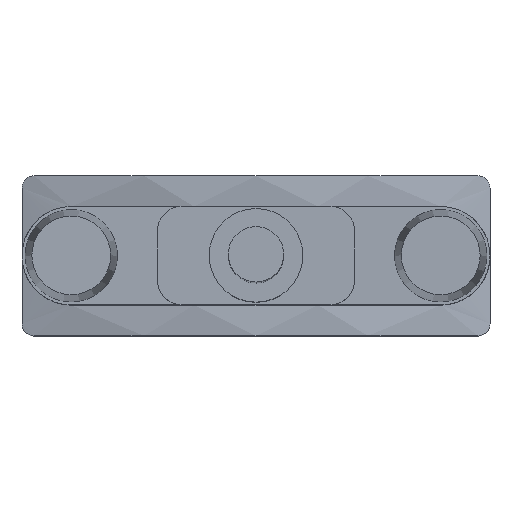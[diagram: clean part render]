
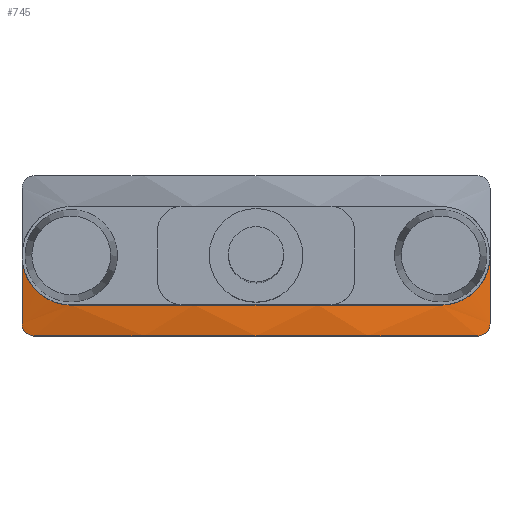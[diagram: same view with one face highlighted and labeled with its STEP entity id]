
A CAD part, top view. The second image highlights one B-rep face of the part: STEP entity #745.
In plain terms, the highlighted cylindrical face has radius 65.927 mm (diameter 131.855 mm), a partial arc.
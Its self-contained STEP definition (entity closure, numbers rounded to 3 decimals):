
#388 = EDGE_CURVE('',#389,#391,#393,.T.);
#389 = VERTEX_POINT('',#390);
#390 = CARTESIAN_POINT('',(15.,-4.,10.268));
#391 = VERTEX_POINT('',#392);
#392 = CARTESIAN_POINT('',(19.,0.,9.2));
#393 = B_SPLINE_CURVE_WITH_KNOTS('',8,(#394,#395,#396,#397,#398,#399,
    #400,#401,#402,#403,#404,#405,#406,#407,#408,#409),.UNSPECIFIED.,.F.
  ,.F.,(9,7,9),(0.,0.324,1.),.UNSPECIFIED.);
#394 = CARTESIAN_POINT('',(15.,-4.,10.268));
#395 = CARTESIAN_POINT('',(15.302,-4.,10.198));
#396 = CARTESIAN_POINT('',(15.601,-3.974,10.126)
  );
#397 = CARTESIAN_POINT('',(15.894,-3.923,
    10.054));
#398 = CARTESIAN_POINT('',(16.178,-3.848,
    9.983));
#399 = CARTESIAN_POINT('',(16.451,-3.751,9.913)
  );
#400 = CARTESIAN_POINT('',(16.709,-3.635,9.845)
  );
#401 = CARTESIAN_POINT('',(16.951,-3.502,
    9.781));
#402 = CARTESIAN_POINT('',(17.645,-3.053,
    9.594));
#403 = CARTESIAN_POINT('',(18.041,-2.689,
    9.483));
#404 = CARTESIAN_POINT('',(18.366,-2.285,9.389
    ));
#405 = CARTESIAN_POINT('',(18.622,-1.852,
    9.313));
#406 = CARTESIAN_POINT('',(18.812,-1.401,9.257
    ));
#407 = CARTESIAN_POINT('',(18.937,-0.937,
    9.219));
#408 = CARTESIAN_POINT('',(19.,-0.469,9.2));
#409 = CARTESIAN_POINT('',(19.,0.,9.2));
#451 = VERTEX_POINT('',#452);
#452 = CARTESIAN_POINT('',(-19.,0.,9.2));
#474 = VERTEX_POINT('',#475);
#475 = CARTESIAN_POINT('',(-15.,-4.,10.268));
#481 = EDGE_CURVE('',#451,#474,#482,.T.);
#482 = B_SPLINE_CURVE_WITH_KNOTS('',7,(#483,#484,#485,#486,#487,#488,
    #489,#490,#491,#492,#493,#494,#495,#496,#497,#498,#499,#500,#501,
    #502),.UNSPECIFIED.,.F.,.F.,(8,6,6,8),(0.,0.51,
    0.807,1.),.UNSPECIFIED.);
#483 = CARTESIAN_POINT('',(-19.,-0.019,
    9.2));
#484 = CARTESIAN_POINT('',(-18.998,-0.422,9.201
    ));
#485 = CARTESIAN_POINT('',(-18.949,-0.825,
    9.215));
#486 = CARTESIAN_POINT('',(-18.852,-1.224,
    9.245));
#487 = CARTESIAN_POINT('',(-18.707,-1.615,
    9.288));
#488 = CARTESIAN_POINT('',(-18.513,-1.992,9.345
    ));
#489 = CARTESIAN_POINT('',(-18.267,-2.351,9.417
    ));
#490 = CARTESIAN_POINT('',(-17.793,-2.875,
    9.551));
#491 = CARTESIAN_POINT('',(-17.6,-3.059,
    9.605));
#492 = CARTESIAN_POINT('',(-17.389,-3.232,
    9.663));
#493 = CARTESIAN_POINT('',(-17.16,-3.391,
    9.726));
#494 = CARTESIAN_POINT('',(-16.912,-3.533,
    9.792));
#495 = CARTESIAN_POINT('',(-16.648,-3.657,
    9.861));
#496 = CARTESIAN_POINT('',(-16.187,-3.825,
    9.979));
#497 = CARTESIAN_POINT('',(-15.999,-3.882,10.027)
  );
#498 = CARTESIAN_POINT('',(-15.805,-3.928,
    10.075));
#499 = CARTESIAN_POINT('',(-15.608,-3.964,
    10.124));
#500 = CARTESIAN_POINT('',(-15.406,-3.988,
    10.172));
#501 = CARTESIAN_POINT('',(-15.204,-4.,
    10.221));
#502 = CARTESIAN_POINT('',(-15.,-4.,10.268));
#594 = EDGE_CURVE('',#474,#389,#595,.T.);
#595 = CIRCLE('',#596,65.927);
#596 = AXIS2_PLACEMENT_3D('',#597,#598,#599);
#597 = CARTESIAN_POINT('',(0.,-4.,-53.93));
#598 = DIRECTION('',(0.,1.,0.));
#599 = DIRECTION('',(-1.,0.,0.));
#745 = ADVANCED_FACE('',(#746),#812,.T.);
#746 = FACE_BOUND('',#747,.T.);
#747 = EDGE_LOOP('',(#748,#756,#757,#758,#759,#767,#786,#795));
#748 = ORIENTED_EDGE('',*,*,#749,.T.);
#749 = EDGE_CURVE('',#750,#391,#752,.T.);
#750 = VERTEX_POINT('',#751);
#751 = CARTESIAN_POINT('',(19.,-5.5,9.2));
#752 = LINE('',#753,#754);
#753 = CARTESIAN_POINT('',(19.,-6.5,9.2));
#754 = VECTOR('',#755,1.);
#755 = DIRECTION('',(0.,1.,0.));
#756 = ORIENTED_EDGE('',*,*,#388,.F.);
#757 = ORIENTED_EDGE('',*,*,#594,.F.);
#758 = ORIENTED_EDGE('',*,*,#481,.F.);
#759 = ORIENTED_EDGE('',*,*,#760,.T.);
#760 = EDGE_CURVE('',#451,#761,#763,.T.);
#761 = VERTEX_POINT('',#762);
#762 = CARTESIAN_POINT('',(-19.,-5.5,9.2));
#763 = LINE('',#764,#765);
#764 = CARTESIAN_POINT('',(-19.,6.5,9.2));
#765 = VECTOR('',#766,1.);
#766 = DIRECTION('',(0.,-1.,0.));
#767 = ORIENTED_EDGE('',*,*,#768,.T.);
#768 = EDGE_CURVE('',#761,#769,#771,.T.);
#769 = VERTEX_POINT('',#770);
#770 = CARTESIAN_POINT('',(-18.,-6.5,9.492));
#771 = B_SPLINE_CURVE_WITH_KNOTS('',7,(#772,#773,#774,#775,#776,#777,
    #778,#779,#780,#781,#782,#783,#784,#785),.UNSPECIFIED.,.F.,.F.,(8,6,
    8),(0.,0.596,1.),.UNSPECIFIED.);
#772 = CARTESIAN_POINT('',(-19.,-5.5,9.2));
#773 = CARTESIAN_POINT('',(-19.,-5.624,9.2));
#774 = CARTESIAN_POINT('',(-18.982,-5.748,
    9.205));
#775 = CARTESIAN_POINT('',(-18.946,-5.869,
    9.216));
#776 = CARTESIAN_POINT('',(-18.893,-5.986,
    9.232));
#777 = CARTESIAN_POINT('',(-18.821,-6.096,
    9.254));
#778 = CARTESIAN_POINT('',(-18.731,-6.196,
    9.28));
#779 = CARTESIAN_POINT('',(-18.553,-6.338,
    9.333));
#780 = CARTESIAN_POINT('',(-18.474,-6.389,9.356
    ));
#781 = CARTESIAN_POINT('',(-18.387,-6.432,
    9.381));
#782 = CARTESIAN_POINT('',(-18.295,-6.466,
    9.408));
#783 = CARTESIAN_POINT('',(-18.198,-6.489,
    9.436));
#784 = CARTESIAN_POINT('',(-18.099,-6.5,9.464));
#785 = CARTESIAN_POINT('',(-18.,-6.5,9.492));
#786 = ORIENTED_EDGE('',*,*,#787,.T.);
#787 = EDGE_CURVE('',#769,#788,#790,.T.);
#788 = VERTEX_POINT('',#789);
#789 = CARTESIAN_POINT('',(18.,-6.5,9.492));
#790 = CIRCLE('',#791,65.927);
#791 = AXIS2_PLACEMENT_3D('',#792,#793,#794);
#792 = CARTESIAN_POINT('',(0.,-6.5,-53.93));
#793 = DIRECTION('',(0.,1.,-0.));
#794 = DIRECTION('',(-1.,0.,0.));
#795 = ORIENTED_EDGE('',*,*,#796,.F.);
#796 = EDGE_CURVE('',#750,#788,#797,.T.);
#797 = B_SPLINE_CURVE_WITH_KNOTS('',7,(#798,#799,#800,#801,#802,#803,
    #804,#805,#806,#807,#808,#809,#810,#811),.UNSPECIFIED.,.F.,.F.,(8,6,
    8),(0.,0.606,1.),.UNSPECIFIED.);
#798 = CARTESIAN_POINT('',(19.,-5.5,9.2));
#799 = CARTESIAN_POINT('',(19.,-5.626,9.2));
#800 = CARTESIAN_POINT('',(18.982,-5.752,
    9.206));
#801 = CARTESIAN_POINT('',(18.945,-5.875,
    9.217));
#802 = CARTESIAN_POINT('',(18.889,-5.994,9.233
    ));
#803 = CARTESIAN_POINT('',(18.815,-6.105,
    9.256));
#804 = CARTESIAN_POINT('',(18.722,-6.205,
    9.283));
#805 = CARTESIAN_POINT('',(18.542,-6.345,
    9.336));
#806 = CARTESIAN_POINT('',(18.463,-6.394,9.359
    ));
#807 = CARTESIAN_POINT('',(18.378,-6.435,
    9.384));
#808 = CARTESIAN_POINT('',(18.288,-6.467,
    9.41));
#809 = CARTESIAN_POINT('',(18.193,-6.489,
    9.437));
#810 = CARTESIAN_POINT('',(18.097,-6.5,9.465));
#811 = CARTESIAN_POINT('',(18.,-6.5,9.492));
#812 = CYLINDRICAL_SURFACE('',#813,65.927);
#813 = AXIS2_PLACEMENT_3D('',#814,#815,#816);
#814 = CARTESIAN_POINT('',(0.,6.5,-53.93));
#815 = DIRECTION('',(0.,1.,0.));
#816 = DIRECTION('',(-1.,0.,0.));
